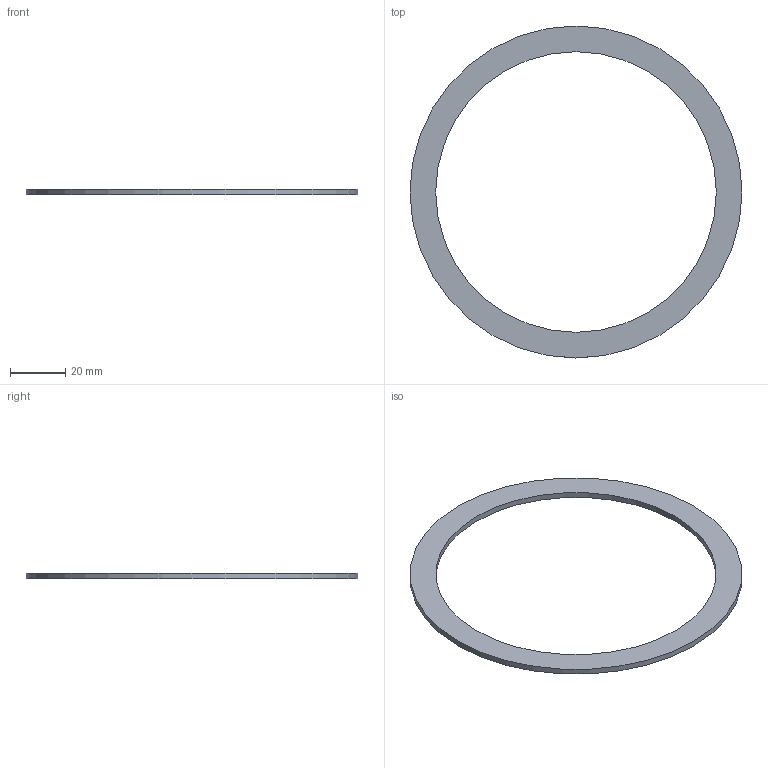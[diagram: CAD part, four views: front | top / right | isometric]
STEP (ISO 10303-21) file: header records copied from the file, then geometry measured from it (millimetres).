
FILE_DESCRIPTION((''),'2;1');
FILE_NAME('W:\13785_CF_Global_Fit_Umsetzung\227_Copper_Gasket\M213-454.stp','2010-09-01T15:38:37',('KAA'),(''),'Autodesk Inventor 2011','Autodesk Inventor 2011','');
FILE_SCHEMA(('AUTOMOTIVE_DESIGN { 1 0 10303 214 1 1 1 1 }'));
Length unit declared in the file: millimetre
Products named in the file (1): 213-454
Bounding box: 120.45 x 120.45 x 2.1 mm (x, y, z)
Volume: 6836.4 mm3; surface area: 7977.2 mm2
Topology: 1 solids, 1 shells, 4 faces, 6 edges, 4 vertices
Faces by surface type: cylinder 2, plane 2
Full cylindrical faces by diameter (mm): 101.8 x1, 120.45 x1
Entity records: 114 total; most frequent: DIRECTION 18, CARTESIAN_POINT 13, AXIS2_PLACEMENT_3D 9, ORIENTED_EDGE 8, EDGE_LOOP 8, VERTEX_POINT 4, CIRCLE 4, EDGE_CURVE 4
